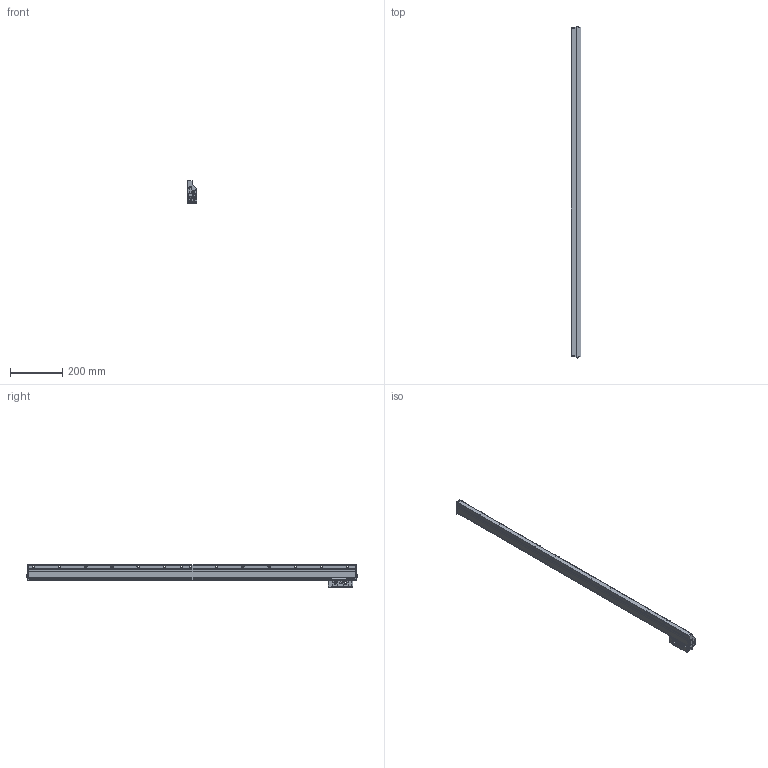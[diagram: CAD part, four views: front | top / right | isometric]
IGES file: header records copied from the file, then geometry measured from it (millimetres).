
Start section: Elysium IGES Interface
Global section: file name: 82HK:\20_商品設計\設計１課\個人\宮澤\郷間さん\AT1123\3D\NEW_ﾌｧｲﾙ\IGES\AT1123-1140.igs; native system: Creo Elements/Direct Modeling 18.1B  29-Sep-2012; preprocessor: Creo Element/Direct IGES_3D V2.2; author: Unknown; organization: Unknown; date: 20181012.091302; units: millimetre
Bounding box: 37 x 1268.44 x 85 mm (x, y, z)
Volume: 2004039.5 mm3; surface area: 291093.2 mm2
Topology: 2 solids, 2 shells, 3048 faces, 8109 edges, 5255 vertices
Faces by surface type: bspline 3048
